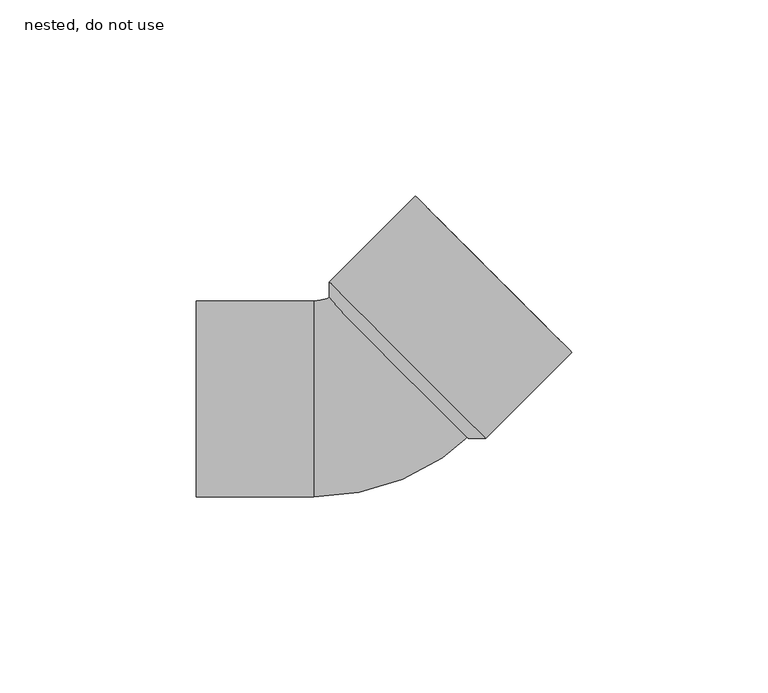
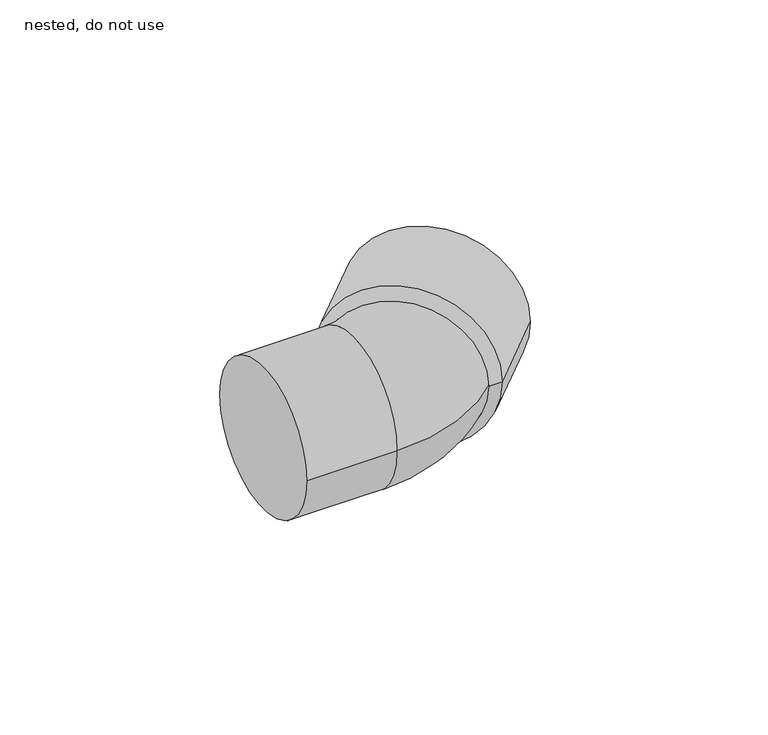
"""IFC4 building model written with IfcOpenShell, lengths in millimetres: pipe fitting geometry, NLRS_52_PIF_UN_Vacurain Flex bocht 1LV_SH_Dyka : nested, do not use."""

from ifc_helpers import new_model, si_unit, point, frame, origin, place, context, project, spatial, polyline, circle_curve, ellipse_curve, trimmed, source, transform, mapped, element, save
from ifc_brep_helpers import plane_surface, cylinder_surface, revolved_surface, advanced_brep


def nested_do_not_use_d92b0706(model_context):
    return source(origin(), model_context, "Body", "AdvancedBrep", [
        advanced_brep(
        [(51.7602164, 11.8793939, 0.0), (11.8793939, 51.7602164, 0.0), (14.1421356, 49.4974747, 0.0), (49.4974747, 14.1421356, 0.0), (29.8399062, -10.0409163, 0.0), (-10.0409163, 29.8399062, 0.0), (25.3144228, -10.0409163, 0.0), (-10.0409163, 25.3144228, 0.0)],
        [
            (0, 1, circle_curve(frame((31.8198052, 31.8198052, 0.0), z_axis=(0.7071067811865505, 0.7071067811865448, 0.0), x_axis=(-0.7071067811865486, 0.7071067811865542, 0.0)), 28.2)),
            (1, 2),
            (2, 3, circle_curve(frame((31.8198052, 31.8198052, 0.0), z_axis=(-0.7071067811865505, -0.7071067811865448, 0.0), x_axis=(-0.7071067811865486, 0.7071067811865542, 0.0)), 25.0)),
            (3, 0),
            (1, 0, circle_curve(frame((31.8198052, 31.8198052, 0.0), z_axis=(0.7071067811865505, 0.7071067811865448, 0.0), x_axis=(-0.7071067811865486, 0.7071067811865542, 0.0)), 28.2)),
            (3, 2, circle_curve(frame((31.8198052, 31.8198052, 0.0), z_axis=(-0.7071067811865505, -0.7071067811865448, 0.0), x_axis=(-0.7071067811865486, 0.7071067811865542, 0.0)), 25.0)),
            (4, 5, circle_curve(frame((9.8994949, 9.8994949, 0.0), z_axis=(0.7071067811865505, 0.7071067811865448, 0.0), x_axis=(-0.7071067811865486, 0.7071067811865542, 0.0)), 28.2)),
            (5, 1),
            (0, 4),
            (5, 4, circle_curve(frame((9.8994949, 9.8994949, 0.0), z_axis=(0.7071067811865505, 0.7071067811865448, 0.0), x_axis=(-0.7071067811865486, 0.7071067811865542, 0.0)), 28.2)),
            (6, 7, circle_curve(frame((7.6367532, 7.6367532, 0.0), z_axis=(0.7071067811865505, 0.7071067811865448, 0.0), x_axis=(-0.7071067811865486, 0.7071067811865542, 0.0)), 25.0)),
            (7, 5),
            (4, 6),
            (7, 6, circle_curve(frame((7.6367532, 7.6367532, 0.0), z_axis=(0.7071067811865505, 0.7071067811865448, 0.0), x_axis=(-0.7071067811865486, 0.7071067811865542, 0.0)), 25.0)),
            (2, 7),
            (6, 3),
        ],
        [
            plane_surface(frame((31.8198052, 31.8198052, 0.0), z_axis=(0.7071067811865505, 0.7071067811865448, 0.0), x_axis=(-0.7071067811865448, 0.7071067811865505, 0.0))),
            cylinder_surface(frame((9.8994949, 9.8994949, 0.0), z_axis=(-0.7071067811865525, -0.7071067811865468, 0.0), x_axis=(-0.7071067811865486, 0.7071067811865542, 0.0)), 28.2),
            revolved_surface(polyline([(-10.0409163, 29.8399062, 0.0), (-10.0409163, 25.3144228, 0.0)]), (9.8994949, 9.8994949, 0.0), (-0.7071067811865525, -0.7071067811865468, 0.0)),
            revolved_surface(polyline([(-10.040916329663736, 25.314422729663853, 0.0), (14.142135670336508, 49.4974747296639, 0.0)]), (9.8994949, 9.8994949, 0.0), (-0.7071067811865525, -0.7071067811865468, 0.0)),
        ],
        [
            (0, [[1, 2, 3, 4]]),
            (0, [[5, -4, 6, -2]]),
            (1, [[7, 8, -1, 9]]),
            (1, [[10, -9, -5, -8]]),
            (2, [[11, 12, -7, 13]]),
            (2, [[14, -13, -10, -12]]),
            (3, [[-3, 15, -11, 16]]),
            (3, [[-6, -16, -14, -15]]),
        ],
    ),
        advanced_brep(
        [(-44.0, -25.0, 0.0), (-44.0, 25.0, 0.0), (-14.0, -25.0, 0.0), (-14.0, 25.0, 0.0), (27.5771645, -7.7781746, 0.0), (-7.7781746, 27.5771645, 0.0)],
        [
            (0, 1, circle_curve(frame((-44.0, 0.0, 0.0), z_axis=(-1.0, 0.0, 0.0), x_axis=(0.0, 1.0, 0.0)), 25.0)),
            (1, 0, circle_curve(frame((-44.0, 0.0, 0.0), z_axis=(-1.0, 0.0, 0.0), x_axis=(0.0, 1.0, 0.0)), 25.0)),
            (0, 2),
            (2, 3, circle_curve(frame((-14.0, 0.0, 0.0), z_axis=(-1.0, 0.0, 0.0), x_axis=(0.0, 1.0, 0.0)), 25.0)),
            (3, 1),
            (3, 2, circle_curve(frame((-14.0, 0.0, 0.0), z_axis=(-1.0, 0.0, 0.0), x_axis=(0.0, 1.0, 0.0)), 25.0)),
            (2, 4, circle_curve(frame((-14.0, 33.7989899, 0.0), z_axis=(0.0, 0.0, 1.0), x_axis=(0.0, -1.0, 0.0)), 58.7989899)),
            (4, 5, circle_curve(frame((9.8994949, 9.8994949, 0.0), z_axis=(-0.7071067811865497, -0.7071067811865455, 0.0), x_axis=(-0.7071067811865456, 0.7071067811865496, 0.0)), 25.0)),
            (5, 3, circle_curve(frame((-14.0, 33.7989899, 0.0), z_axis=(0.0, 0.0, -1.0), x_axis=(0.0, -1.0, 0.0)), 8.7989899)),
            (5, 4, circle_curve(frame((9.8994949, 9.8994949, 0.0), z_axis=(-0.7071067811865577, -0.7071067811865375, 0.0), x_axis=(-0.7071067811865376, 0.7071067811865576, 0.0)), 25.0)),
        ],
        [
            plane_surface(frame((-44.0, 0.0, 0.0), z_axis=(-1.0, 0.0, 0.0), x_axis=(0.0, 0.0, 1.0))),
            cylinder_surface(frame((-44.0, 0.0, 0.0), z_axis=(-1.0, 0.0, 0.0), x_axis=(0.0, 1.0, 0.0)), 25.0),
            revolved_surface(trimmed(ellipse_curve(frame((-14.0, 0.0, 0.0), z_axis=(-1.0000000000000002, 0.0, 0.0), x_axis=(0.0, 1.0, 0.0)), 25.0, 25.0), [point((-14.0, -25.0, 0.0))], [point((-14.0, 25.0, 0.0))], True, "CARTESIAN"), (-14.0, 33.7989899, 0.0), (0.0, 0.0, 1.0000000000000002)),
            revolved_surface(trimmed(ellipse_curve(frame((-14.0, 0.0, 0.0), z_axis=(-1.0000000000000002, 0.0, 0.0), x_axis=(0.0, 1.0, 0.0)), 25.0, 25.0), [point((-14.0, 25.0, 0.0))], [point((-14.0, -25.0, 0.0))], True, "CARTESIAN"), (-14.0, 33.7989899, 0.0), (0.0, 0.0, 1.0000000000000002)),
            plane_surface(frame((9.8994949, 9.8994949, 0.0), z_axis=(0.7071067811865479, 0.7071067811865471, 0.0), x_axis=(0.0, 0.0, 1.0))),
        ],
        [
            (0, [[1, 2]]),
            (1, [[-1, 3, 4, 5]]),
            (1, [[-2, -5, 6, -3]]),
            (2, [[-4, 7, 8, 9]]),
            (3, [[-6, -9, 10, -7]]),
            (4, [[-8, -10]]),
        ],
    ),
    ])


if __name__ == "__main__":
    model = new_model("IFC4")
    model_context = context("Model", 3, world=origin())
    ifc_project = project(units=[si_unit("LENGTHUNIT", "METRE", prefix="MILLI")], contexts=[model_context])
    site = spatial("IfcSite", under=ifc_project)
    building = spatial("IfcBuilding", under=site)
    placement = place(None, origin())
    nested_do_not_use_shape = nested_do_not_use_d92b0706(model_context)
    element("IfcPipeFitting", 1, ObjectType="NLRS_52_PIF_UN_Vacurain Flex bocht 1LV_SH_Dyka : nested, do not use", at=placement, inside=building, context=model_context, shape_type="MappedRepresentation", body=[
        mapped(nested_do_not_use_shape, transform((0.0, 0.0, 0.0), x_axis=(1.0, 0.0, 0.0), y_axis=(0.0, 1.0, 0.0), z_axis=(0.0, 0.0, 1.0))),
    ])
    save(model, "model.ifc")
